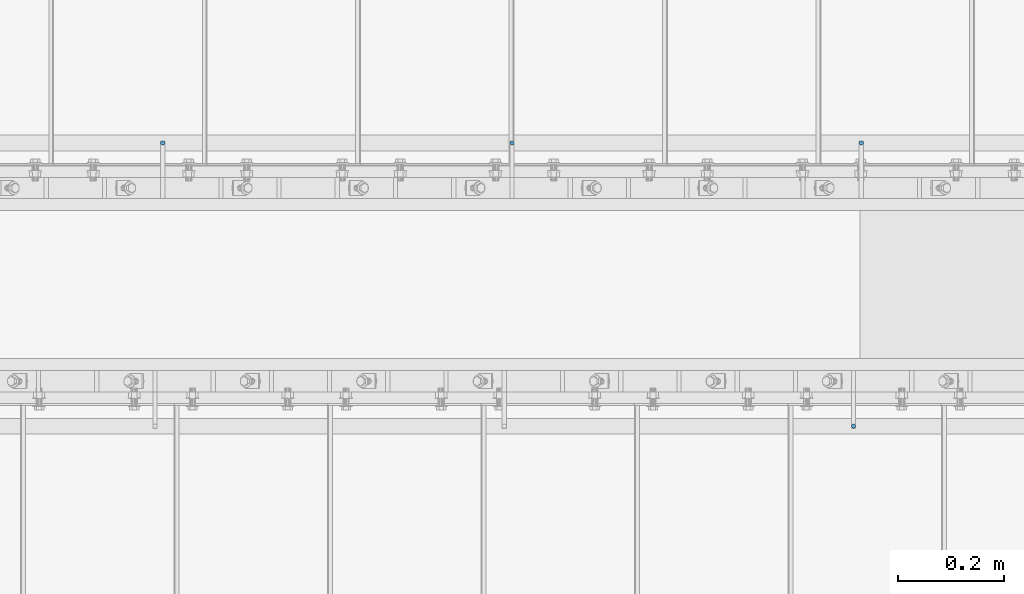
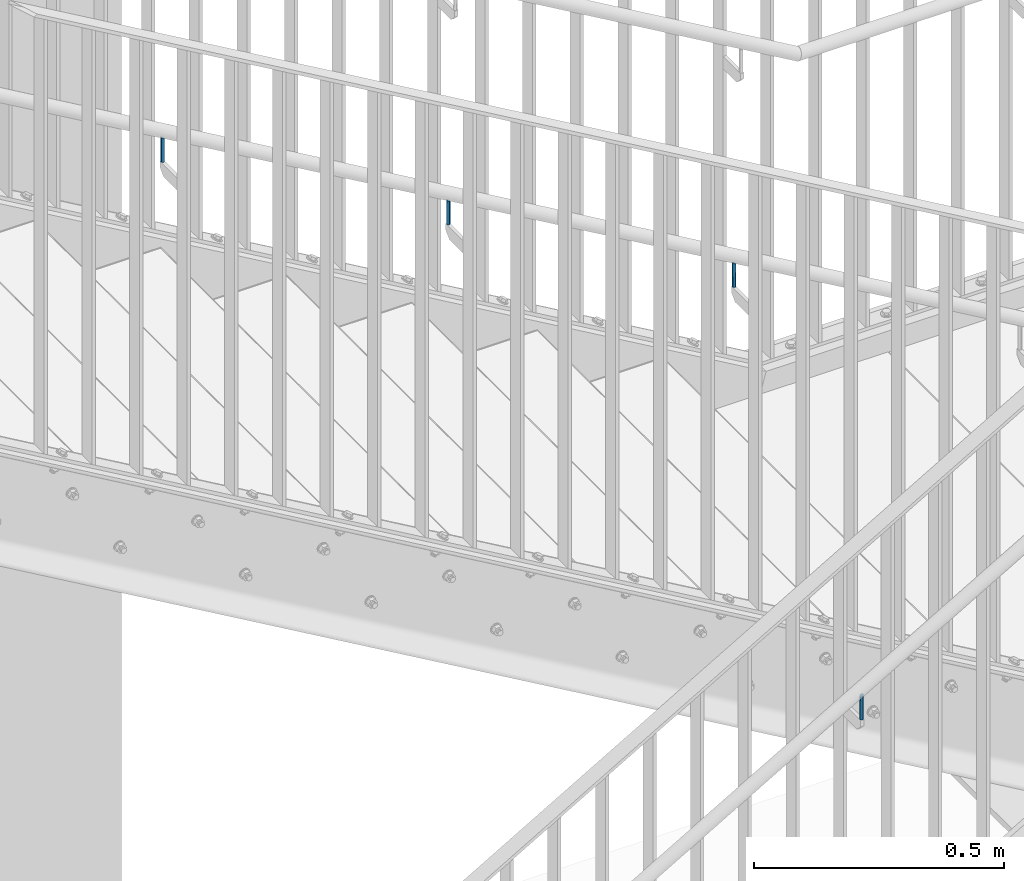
# One storey, part 8 of 145: 4 columns, 4 openings.
"""IFC2X3 building model written with IfcOpenShell, lengths in millimetres."""

from ifc_helpers import new_model, entity, si_unit, converted_unit, frame, origin, origin_with_axes, origin_2d, place, context, project, spatial, polyline, circle, outline, extrude, material, element, save


model = new_model("IFC2X3")

# Units and contexts
model_context = context("Model", 3, precision=1e-09, world=origin_with_axes())
ifc_project = project(units=[si_unit("LENGTHUNIT", "METRE", prefix="MILLI"), si_unit("AREAUNIT", "SQUARE_METRE"), si_unit("VOLUMEUNIT", "CUBIC_METRE"), converted_unit("PLANEANGLEUNIT", "DEGREE", entity("IfcPlaneAngleMeasure", 0.01745329), si_unit("PLANEANGLEUNIT", "RADIAN"), dimensions=[0, 0, 0, 0, 0, 0, 0])], contexts=[model_context])

# Site, building, storey
site_placement = place(None, origin_with_axes())
site = spatial("IfcSite", under=ifc_project, at=site_placement, Name="BZ1 Grund- und Mittelschule 85716 Unterschlei?heim", CompositionType="ELEMENT")
building_placement = place(site_placement, origin_with_axes())
building = spatial("IfcBuilding", under=site, at=building_placement, Name="Struktur 1", CompositionType="ELEMENT")
storey_placement = place(building_placement, origin_with_axes())
storey = spatial("IfcBuildingStorey", under=building, at=storey_placement, Name="Default Storey", CompositionType="ELEMENT", Elevation=0.0)

# Column, opening
ifc_material = material(Name="1.4301")
column_1_placement = place(None, frame((19398.54589366, -1962.502, 2056.093026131), z_axis=(0.0, 0.0, 1.0), x_axis=(0.0, 1.0, 0.0)))
column_1 = element("IfcColumn", 1, at=column_1_placement, inside=storey, material=ifc_material, Name="-", ObjectType="-", context=model_context, shape_type="SweptSolid", body=[
    extrude(circle(Radius=4.0, at=origin_2d()), origin(), (0.0, 0.0, 1.0), 60.0),
])
opening_1_placement = place(column_1_placement, frame((-104.1, 13.305390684, 49.935677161), z_axis=(-1.0, 0.0, 0.0), x_axis=(0.0, -0.864466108, 0.502691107)))
element("IfcOpeningElement", 2, at=opening_1_placement, cuts=column_1, ObjectType="Opening", context=model_context, shape_type="SweptSolid", body=[
    extrude(outline(polyline([(0.0, 0.0), (33.862833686, 0.0), (4.378771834, 17.145120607), (0.0, 0.0)])), origin(), (0.0, 0.0, -1.0), 208.2),
])

column_2_placement = place(None, frame((18093.141490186, -1427.506106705, 3550.560110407), z_axis=(0.0, 0.0, 1.0), x_axis=(0.0, -1.0, 0.0)))
column_2 = element("IfcColumn", 3, at=column_2_placement, inside=storey, material=ifc_material, Name="-", ObjectType="-", context=model_context, shape_type="SweptSolid", body=[
    extrude(circle(Radius=4.0, at=origin_2d()), origin(), (0.0, 0.0, 1.0), 60.0),
])
opening_2_placement = place(column_2_placement, frame((-104.1, 13.305390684, 49.935677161), z_axis=(-1.0, 0.0, 0.0), x_axis=(0.0, -0.864466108, 0.502691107)))
element("IfcOpeningElement", 4, at=opening_2_placement, cuts=column_2, ObjectType="Opening", context=model_context, shape_type="SweptSolid", body=[
    extrude(outline(polyline([(0.0, 0.0), (33.862833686, 0.0), (4.378771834, 17.145120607), (0.0, 0.0)])), origin(), (0.0, 0.0, -1.0), 208.2),
])

column_3_placement = place(None, frame((18753.141490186, -1427.506106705, 3166.767006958), z_axis=(0.0, 0.0, 1.0), x_axis=(0.0, -1.0, 0.0)))
column_3 = element("IfcColumn", 5, at=column_3_placement, inside=storey, material=ifc_material, Name="-", ObjectType="-", context=model_context, shape_type="SweptSolid", body=[
    extrude(circle(Radius=4.0, at=origin_2d()), origin(), (0.0, 0.0, 1.0), 60.0),
])
opening_3_placement = place(column_3_placement, frame((-104.1, 13.305390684, 49.935677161), z_axis=(-1.0, 0.0, 0.0), x_axis=(0.0, -0.864466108, 0.502691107)))
element("IfcOpeningElement", 6, at=opening_3_placement, cuts=column_3, ObjectType="Opening", context=model_context, shape_type="SweptSolid", body=[
    extrude(outline(polyline([(0.0, 0.0), (33.862833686, 0.0), (4.378771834, 17.145120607), (0.0, 0.0)])), origin(), (0.0, 0.0, -1.0), 208.2),
])

column_4_placement = place(None, frame((19413.141490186, -1427.506106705, 2782.97390351), z_axis=(0.0, 0.0, 1.0), x_axis=(0.0, -1.0, 0.0)))
column_4 = element("IfcColumn", 7, at=column_4_placement, inside=storey, material=ifc_material, Name="-", ObjectType="-", context=model_context, shape_type="SweptSolid", body=[
    extrude(circle(Radius=4.0, at=origin_2d()), origin(), (0.0, 0.0, 1.0), 60.0),
])
opening_4_placement = place(column_4_placement, frame((-104.1, 13.305390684, 49.935677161), z_axis=(-1.0, 0.0, 0.0), x_axis=(0.0, -0.864466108, 0.502691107)))
element("IfcOpeningElement", 8, at=opening_4_placement, cuts=column_4, ObjectType="Opening", context=model_context, shape_type="SweptSolid", body=[
    extrude(outline(polyline([(0.0, 0.0), (33.862833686, 0.0), (4.378771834, 17.145120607), (0.0, 0.0)])), origin(), (0.0, 0.0, -1.0), 208.2),
])

save(model, "model.ifc")
